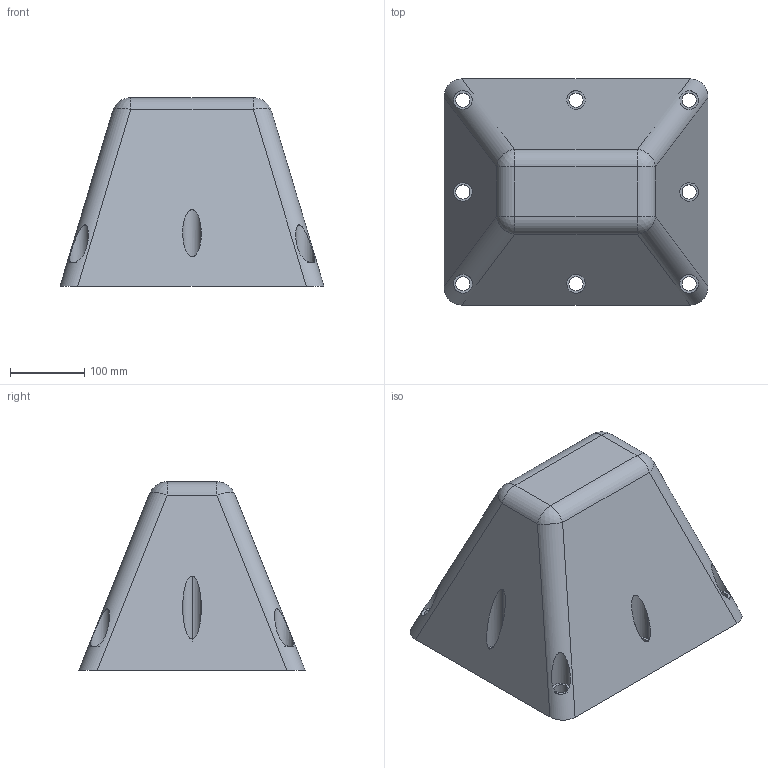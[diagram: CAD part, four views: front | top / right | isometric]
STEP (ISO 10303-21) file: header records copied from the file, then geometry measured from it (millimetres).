
FILE_DESCRIPTION((''),'2;1');
FILE_NAME('IA_2','2010-11-13T',('Bill'),(''),'PRO/ENGINEER BY PARAMETRIC TECHNOLOGY CORPORATION, 2008310','PRO/ENGINEER BY PARAMETRIC TECHNOLOGY CORPORATION, 2008310','');
FILE_SCHEMA(('CONFIG_CONTROL_DESIGN'));
Length unit declared in the file: inch
Products named in the file (1): IA_2
Bounding box: 355.6 x 304.8 x 254 mm (x, y, z)
Volume: 14709216.5 mm3; surface area: 401994.7 mm2
Topology: 1 solids, 1 shells, 54 faces, 120 edges, 76 vertices
Faces by surface type: cylinder 36, plane 14, sphere 4
Entity records: 1830 total; most frequent: CARTESIAN_POINT 544, DIRECTION 264, ORIENTED_EDGE 240, EDGE_CURVE 120, AXIS2_PLACEMENT_3D 110, EDGE_LOOP 78, VERTEX_POINT 76, CIRCLE 56
